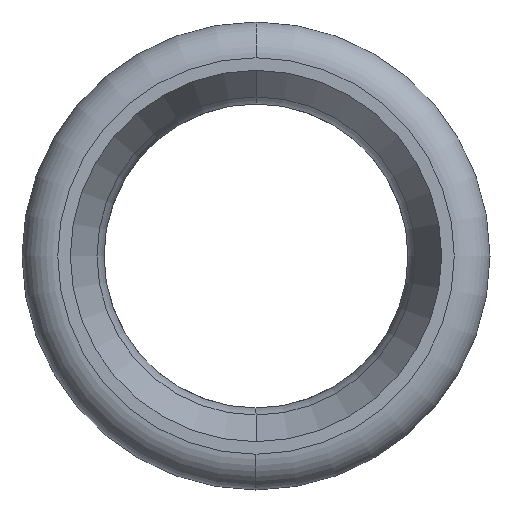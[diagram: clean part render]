
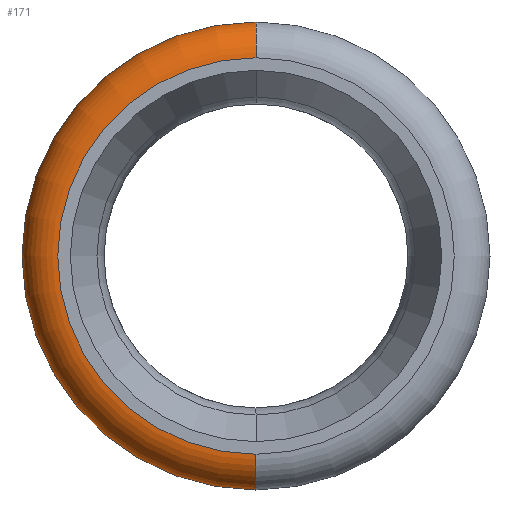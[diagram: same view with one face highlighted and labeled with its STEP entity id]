
A CAD part, left-side view. The second image highlights one B-rep face of the part: STEP entity #171.
In plain terms, the highlighted toroidal (fillet/blend) face has major radius 18.75 mm and minor radius 3.5 mm.
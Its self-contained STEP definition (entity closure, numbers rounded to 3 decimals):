
#171=ADVANCED_FACE('',(#388),#389,.T.);
#388=FACE_OUTER_BOUND('',#668,.T.);
#389=TOROIDAL_SURFACE('',#669,18.75,3.5);
#668=EDGE_LOOP('',(#1097,#1098,#1099,#1100));
#669=AXIS2_PLACEMENT_3D('',#1101,#1102,#1103);
#1097=ORIENTED_EDGE('',*,*,#1571,.T.);
#1098=ORIENTED_EDGE('',*,*,#1655,.F.);
#1099=ORIENTED_EDGE('',*,*,#1656,.F.);
#1100=ORIENTED_EDGE('',*,*,#1657,.F.);
#1101=CARTESIAN_POINT('',(9.,0.0,0.));
#1102=DIRECTION('',(-1.0,0.0,0.));
#1103=DIRECTION('',(0.,0.0,1.0));
#1571=EDGE_CURVE('',#1812,#1811,#1856,.T.);
#1655=EDGE_CURVE('',#1988,#1811,#1989,.T.);
#1656=EDGE_CURVE('',#1990,#1988,#1991,.T.);
#1657=EDGE_CURVE('',#1812,#1990,#1992,.T.);
#1811=VERTEX_POINT('',#2168);
#1812=VERTEX_POINT('',#2169);
#1856=CIRCLE('',#2213,22.25);
#1988=VERTEX_POINT('',#2363);
#1989=CIRCLE('',#2364,3.5);
#1990=VERTEX_POINT('',#2365);
#1991=CIRCLE('',#2366,18.75);
#1992=CIRCLE('',#2367,3.5);
#2168=CARTESIAN_POINT('',(9.,0.,-22.25));
#2169=CARTESIAN_POINT('',(9.,0.,22.25));
#2213=AXIS2_PLACEMENT_3D('',#2630,#2631,#2632);
#2363=CARTESIAN_POINT('',(5.5,0.,-18.75));
#2364=AXIS2_PLACEMENT_3D('',#2786,#2787,#2788);
#2365=CARTESIAN_POINT('',(5.5,0.,18.75));
#2366=AXIS2_PLACEMENT_3D('',#2789,#2790,#2791);
#2367=AXIS2_PLACEMENT_3D('',#2792,#2793,#2794);
#2630=CARTESIAN_POINT('',(9.,0.0,0.));
#2631=DIRECTION('',(-1.0,0.0,0.));
#2632=DIRECTION('',(0.,0.0,1.0));
#2786=CARTESIAN_POINT('',(9.,0.,-18.75));
#2787=DIRECTION('',(0.,-1.0,0.));
#2788=DIRECTION('',(0.,0.,-1.0));
#2789=CARTESIAN_POINT('',(5.5,0.0,0.));
#2790=DIRECTION('',(-1.0,0.0,0.));
#2791=DIRECTION('',(0.,0.0,-1.0));
#2792=CARTESIAN_POINT('',(9.,0.,18.75));
#2793=DIRECTION('',(0.,-1.0,0.));
#2794=DIRECTION('',(0.,0.,1.0));
